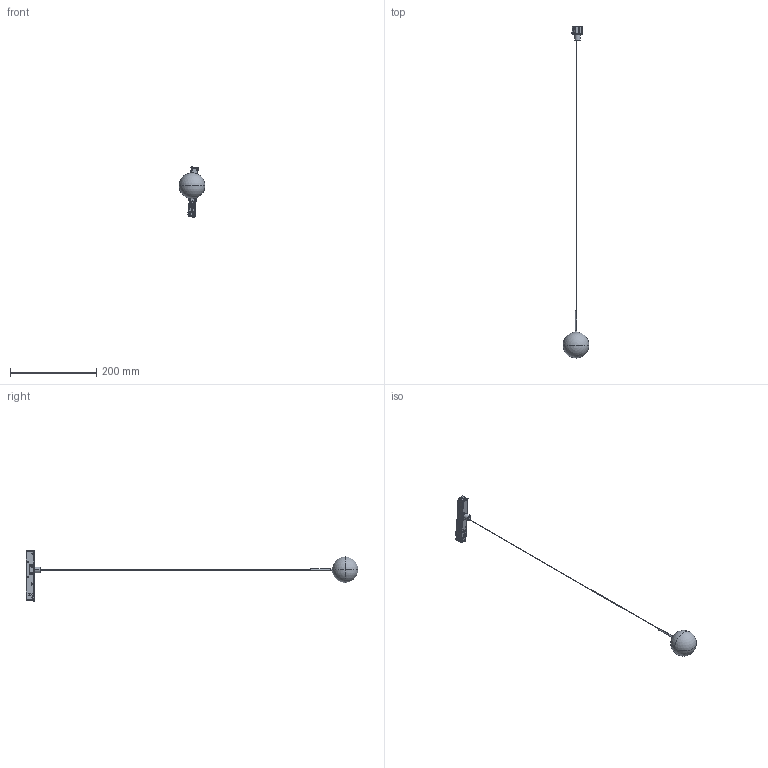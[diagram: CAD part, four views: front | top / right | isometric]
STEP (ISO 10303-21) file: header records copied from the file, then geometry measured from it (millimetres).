
FILE_DESCRIPTION (( 'STEP AP214' ), '1' );
FILE_NAME ('MOON.STEP', '2026-04-01T13:58:11', ( '' ), ( '' ), 'SwSTEP 2.0', 'SolidWorks 2023', '' );
FILE_SCHEMA (( 'AUTOMOTIVE_DESIGN' ));
Length unit declared in the file: millimetre
Products named in the file (1): MOON
Bounding box: 60 x 771.5 x 116.69 mm (x, y, z)
Surface area: 47646.7 mm2 (no closed solid volume)
Topology: 0 solids, 31 shells, 1568 faces, 4371 edges, 2850 vertices
Faces by surface type: plane 1218, cylinder 223, bspline 77, cone 40, torus 6, sphere 4
Entity records: 54931 total; most frequent: CARTESIAN_POINT 17295, ORIENTED_EDGE 8686, DIRECTION 6271, EDGE_CURVE 4346, VERTEX_POINT 2846, LINE 2575, VECTOR 2575, AXIS2_PLACEMENT_3D 1848
